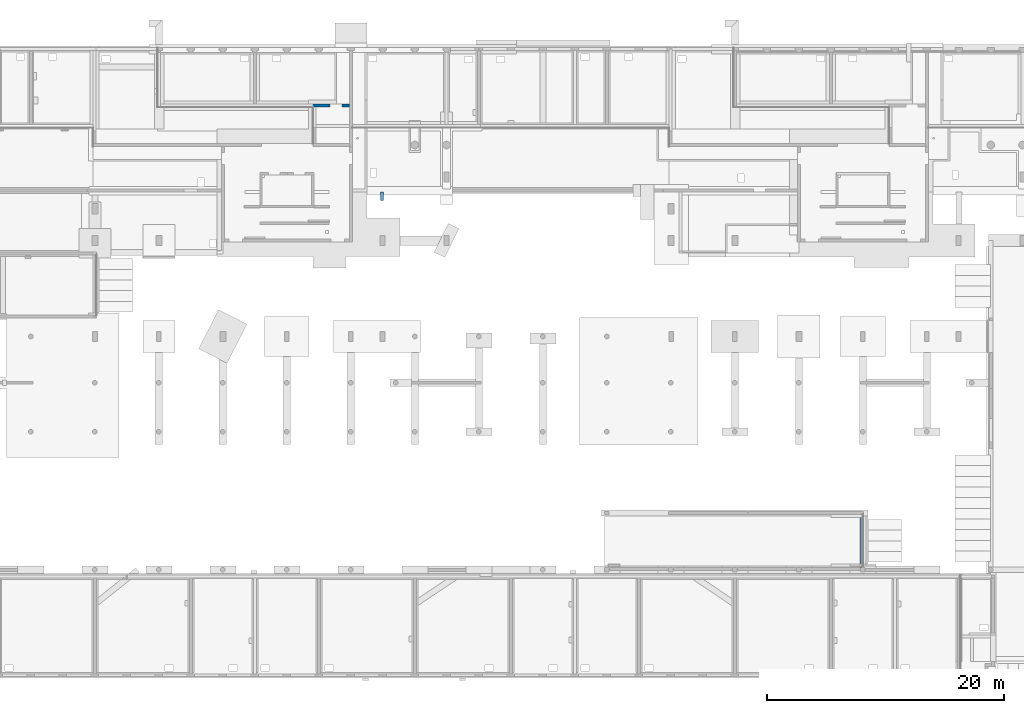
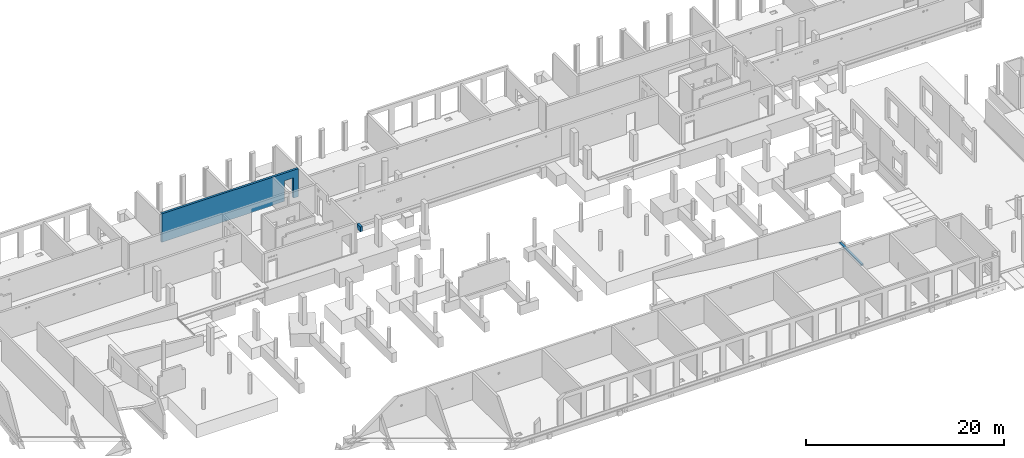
# One storey, part 52 of 60: 3 walls.
"""IFC2X3 building model written with IfcOpenShell, lengths in millimetres."""

from ifc_helpers import new_model, entity, si_unit, converted_unit, derived_unit, direction, frame, frame_2d, origin, place, context, subcontext, project, spatial, rectangle, extrude, faceted_brep, material, layer, layer_set, layer_usage, type_object, element, save


model = new_model("IFC2X3")

# Units and contexts
model_context = context("Model", 3, precision=0.01, world=origin(), true_north=direction((6.12303176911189e-17, 1.0)))
body_context = subcontext(model_context, "Body", "Model", "MODEL_VIEW")
ifc_project = project(units=[si_unit("LENGTHUNIT", "METRE", prefix="MILLI"), si_unit("AREAUNIT", "SQUARE_METRE"), si_unit("VOLUMEUNIT", "CUBIC_METRE"), converted_unit("PLANEANGLEUNIT", "DEGREE", entity("IfcRatioMeasure", 0.0174532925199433), si_unit("PLANEANGLEUNIT", "RADIAN"), dimensions=[0, 0, 0, 0, 0, 0, 0]), si_unit("MASSUNIT", "GRAM", prefix="KILO"), derived_unit("MASSDENSITYUNIT", [(si_unit("MASSUNIT", "GRAM", prefix="KILO"), 1), (si_unit("LENGTHUNIT", "METRE"), -3)]), si_unit("TIMEUNIT", "SECOND"), si_unit("FREQUENCYUNIT", "HERTZ"), si_unit("THERMODYNAMICTEMPERATUREUNIT", "DEGREE_CELSIUS"), derived_unit("THERMALTRANSMITTANCEUNIT", [(si_unit("MASSUNIT", "GRAM", prefix="KILO"), 1), (si_unit("THERMODYNAMICTEMPERATUREUNIT", "KELVIN"), -1), (si_unit("TIMEUNIT", "SECOND"), -3)]), derived_unit("VOLUMETRICFLOWRATEUNIT", [(si_unit("LENGTHUNIT", "METRE"), 3), (si_unit("TIMEUNIT", "SECOND"), -1)]), si_unit("ELECTRICCURRENTUNIT", "AMPERE"), si_unit("ELECTRICVOLTAGEUNIT", "VOLT"), si_unit("POWERUNIT", "WATT"), si_unit("FORCEUNIT", "NEWTON", prefix="KILO"), si_unit("ILLUMINANCEUNIT", "LUX"), si_unit("LUMINOUSFLUXUNIT", "LUMEN"), si_unit("LUMINOUSINTENSITYUNIT", "CANDELA"), derived_unit("USERDEFINED", [(si_unit("MASSUNIT", "GRAM", prefix="KILO"), -1), (si_unit("LENGTHUNIT", "METRE"), -2), (si_unit("TIMEUNIT", "SECOND"), 3), (si_unit("LUMINOUSFLUXUNIT", "LUMEN"), 1)]), derived_unit("LINEARVELOCITYUNIT", [(si_unit("LENGTHUNIT", "METRE"), 1), (si_unit("TIMEUNIT", "SECOND"), -1)]), si_unit("PRESSUREUNIT", "PASCAL"), derived_unit("USERDEFINED", [(si_unit("LENGTHUNIT", "METRE"), -2), (si_unit("MASSUNIT", "GRAM", prefix="KILO"), 1), (si_unit("TIMEUNIT", "SECOND"), -2)])], contexts=[model_context])

# Site, building, storey
site_placement = place(None, origin())
site = spatial("IfcSite", under=ifc_project, at=site_placement, Name="Default", CompositionType="ELEMENT")
building_placement = place(site_placement, origin())
building = spatial("IfcBuilding", under=site, at=building_placement, Name="niet gebruiken", CompositionType="ELEMENT")
storey_placement = place(building_placement, origin())
storey = spatial("IfcBuildingStorey", under=building, at=storey_placement, Name="00 begane grond", CompositionType="ELEMENT", Elevation=0.0)

# Walls
ifc_material = material(Name="NLRS_f2_beton ihwg")
ifc_layer_1 = layer(ifc_material, 250.0)
ifc_layer_set_1 = layer_set([ifc_layer_1], Name="Basic Wall:NLRS_22.21_WA_beton ihwg d=250_gen")
wall_type_1 = type_object("IfcWallType", Name="Basic Wall:NLRS_22.21_WA_beton ihwg d=250_gen", PredefinedType="STANDARD", material=ifc_layer_set_1)
wall_1_placement = place(storey_placement, frame((48475.0, 48351.0, -160.0), z_axis=(0.0, 0.0, 1.0), x_axis=(-1.0, 0.0, 0.0)))
element("IfcWall", 1, at=wall_1_placement, inside=storey, type_object=wall_type_1, Name="Basic Wall:NLRS_22.21_WA_beton ihwg d=250_gen", ObjectType="Basic Wall:NLRS_22.21_WA_beton ihwg d=250_gen", context=body_context, shape_type="Brep", body=[
    faceted_brep([(15925.0, -125.0, 0.0), (15925.0, -125.0, 3510.0), (13050.0, -125.0, 3510.0), (9850.0, -125.0, 3510.0), (8450.0, -125.0, 3510.0), (8100.0, -125.0, 3510.0), (7850.0, -125.0, 3510.0), (7500.0, -125.0, 3510.0), (6070.0, -125.0, 3510.0), (2870.0, -125.0, 3510.0), (0.0, -125.0, 3510.0), (0.0, -125.0, 70.0), (600.0, -125.0, 70.0), (600.0, -125.0, 2562.0), (1622.0, -125.0, 2562.0), (1622.0, -125.0, 70.0), (3050.0, -125.0, 70.0), (3050.0, -125.0, 0.0), (15925.0, 125.0, 3510.0), (15925.0, 125.0, 0.0), (3050.0, 125.0, 0.0), (3050.0, 125.0, 70.0), (2800.0, 125.0, 70.0), (1622.0, 125.0, 70.0), (1622.0, 125.0, 2562.0), (600.0, 125.0, 2562.0), (600.0, 125.0, 70.0), (0.0, 125.0, 70.0), (0.0, 125.0, 3510.0), (2800.0, 125.0, 3510.0), (3050.0, 125.0, 3510.0)], [[[0, 1, 2, 3, 4, 5, 6, 7, 8, 9, 10, 11, 12, 13, 14, 15, 16, 17]], [[18, 19, 20, 21, 22, 23, 24, 25, 26, 27, 28, 29, 30]], [[19, 0, 17, 20]], [[1, 0, 19, 18]], [[10, 9, 8, 7, 6, 5, 4, 3, 2, 1, 18, 30, 29, 28]], [[25, 13, 12, 26]], [[13, 25, 24, 14]], [[14, 24, 23, 15]], [[10, 28, 27, 11]], [[12, 11, 27, 26]], [[16, 21, 20, 17]], [[21, 16, 15, 23, 22]]]),
])
ifc_layer_2 = layer(ifc_material, 250.0)
ifc_layer_set_2 = layer_set([ifc_layer_2], Name="Basic Wall:NLRS_21.21_WA_beton ihwg d=250_gen")
ifc_layer_usage = layer_usage(ifc_layer_set_2, "AXIS2", "NEGATIVE", 125.0)
wall_type_2 = type_object("IfcWallType", Name="Basic Wall:NLRS_21.21_WA_beton ihwg d=250_gen", PredefinedType="STANDARD", material=ifc_layer_set_2)
wall_2_placement = place(storey_placement, frame((51250.0, 40336.0, -600.0), z_axis=(0.0, 0.0, 1.0), x_axis=(0.0, 1.0, 0.0)))
element("IfcWallStandardCase", 2, at=wall_2_placement, inside=storey, type_object=wall_type_2, material=ifc_layer_usage, Name="Basic Wall:NLRS_21.21_WA_beton ihwg d=250_gen", ObjectType="Basic Wall:NLRS_21.21_WA_beton ihwg d=250_gen", context=body_context, shape_type="SweptSolid", body=[
    extrude(rectangle(XDim=724.999999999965, YDim=249.999999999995, at=frame_2d((362.499999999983, 0.0), x_axis=(-1.0, 0.0))), origin(), (0.0, 0.0, 1.0), 600.0),
])
wall_type_3 = type_object("IfcWallType", Name="Basic Wall:NLRS_16.22_WA_beton ihwg d=300_gen", PredefinedType="NOTDEFINED")
wall_3_placement = place(storey_placement, frame((91700.0, 9396.0, -200.0), z_axis=(0.0, 0.0, 1.0), x_axis=(0.0, 1.0, 0.0)))
element("IfcWall", 3, at=wall_3_placement, inside=storey, type_object=wall_type_3, material=ifc_material, Name="Basic Wall:NLRS_16.22_WA_beton ihwg d=300_gen", ObjectType="Basic Wall:NLRS_16.22_WA_beton ihwg d=300_gen", context=body_context, shape_type="Brep", body=[
    faceted_brep([(0.0, -150.0, 0.0), (4479.61573900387, -150.0, 0.0), (4479.61573900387, -150.0, 200.0), (0.0, -150.0, 200.0), (4479.61573900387, 150.0, 0.0), (4335.0, 150.0, 0.0), (4335.0, 150.0, 135.838806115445), (4479.61573900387, 150.0, 135.838806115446), (0.0, 150.0, 0.0), (120.0, 150.0, 0.0), (120.0, 99.9998372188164, 0.0), (4335.0, 99.9998372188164, 0.0), (4479.61573900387, 99.999837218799, 129.426748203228), (4479.61573900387, 99.9998372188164, 200.0), (0.0, 99.9998372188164, 200.0), (0.0, 99.9998372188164, 129.426748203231), (0.0, 150.0, 135.838806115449), (120.0, 99.9998372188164, 129.42674820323), (4335.0, 99.9998372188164, 129.426748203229), (120.0, 150.0, 135.838806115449)], [[[0, 1, 2, 3]], [[4, 5, 6, 7]], [[1, 0, 8, 9, 10, 11, 5, 4]], [[2, 1, 4, 7, 12, 13]], [[3, 2, 13, 14]], [[0, 3, 14, 15, 16, 8]], [[11, 10, 17, 15, 14, 13, 12, 18]], [[15, 17, 19, 16]], [[11, 18, 6, 5]], [[17, 10, 9, 19]], [[18, 12, 7, 6]], [[9, 8, 16, 19]]]),
])

save(model, "model.ifc")
